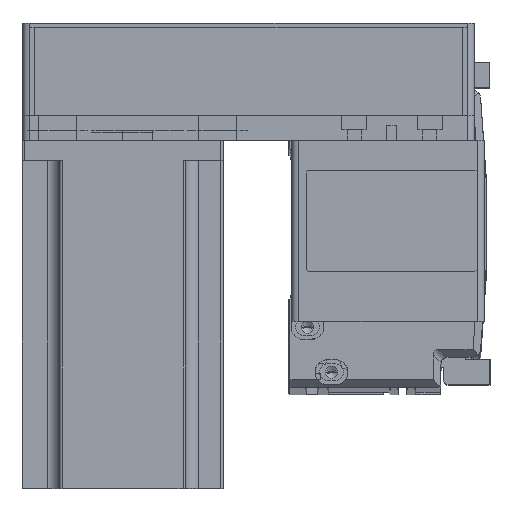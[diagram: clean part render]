
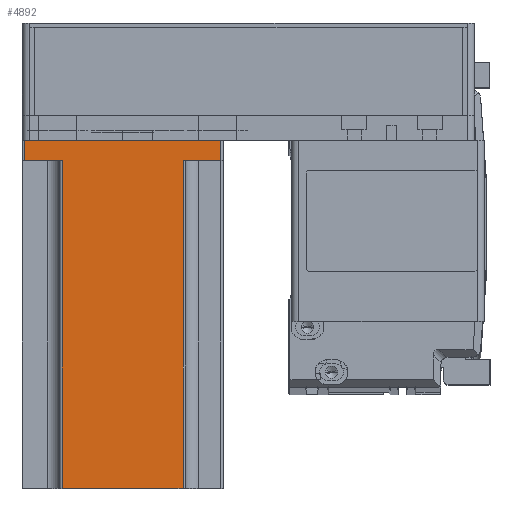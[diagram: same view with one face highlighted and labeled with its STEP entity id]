
A CAD part, top view. The second image highlights one B-rep face of the part: STEP entity #4892.
In plain terms, the highlighted planar face has unit normal (0, 0, 1) as drawn and (0, 1, 0) by its records, which use the part's own axes.
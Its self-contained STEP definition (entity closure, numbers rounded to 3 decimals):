
#2008 = ORIENTED_EDGE ( 'NONE', *, *, #39319, .T. ) ;
#2148 = EDGE_CURVE ( 'NONE', #21009, #41168, #34550, .T. ) ;
#2299 = DIRECTION ( 'NONE',  ( -1., 0., 0. ) ) ;
#3958 = CARTESIAN_POINT ( 'NONE',  ( -39., 40., 0. ) ) ;
#4892 = ADVANCED_FACE ( 'NONE', ( #8945 ), #6935, .F. ) ;
#5404 = LINE ( 'NONE', #43328, #29310 ) ;
#6935 = PLANE ( 'NONE',  #30428 ) ;
#8684 = DIRECTION ( 'NONE',  ( 1., 0., 0. ) ) ;
#8945 = FACE_OUTER_BOUND ( 'NONE', #35890, .T. ) ;
#9253 = ORIENTED_EDGE ( 'NONE', *, *, #53356, .F. ) ;
#11002 = ORIENTED_EDGE ( 'NONE', *, *, #32394, .T. ) ;
#12404 = CARTESIAN_POINT ( 'NONE',  ( -24., 40., 138.3 ) ) ;
#12584 = DIRECTION ( 'NONE',  ( 0., 0., 1. ) ) ;
#13468 = DIRECTION ( 'NONE',  ( 0., 0., 1. ) ) ;
#14840 = ORIENTED_EDGE ( 'NONE', *, *, #32261, .F. ) ;
#16613 = VECTOR ( 'NONE', #8684, 1000. ) ;
#19443 = CARTESIAN_POINT ( 'NONE',  ( 24., 40., 138.3 ) ) ;
#20026 = EDGE_CURVE ( 'NONE', #21514, #26393, #37053, .T. ) ;
#21009 = VERTEX_POINT ( 'NONE', #19443 ) ;
#21514 = VERTEX_POINT ( 'NONE', #54699 ) ;
#22385 = VECTOR ( 'NONE', #2299, 1000. ) ;
#23479 = CARTESIAN_POINT ( 'NONE',  ( 40., 40., 138.3 ) ) ;
#24588 = VECTOR ( 'NONE', #54751, 1000. ) ;
#25071 = CARTESIAN_POINT ( 'NONE',  ( 40., 40., 138.3 ) ) ;
#25332 = CARTESIAN_POINT ( 'NONE',  ( 39., 40., 138.3 ) ) ;
#26393 = VERTEX_POINT ( 'NONE', #3958 ) ;
#26612 = CARTESIAN_POINT ( 'NONE',  ( -25., 40., 8. ) ) ;
#26780 = CARTESIAN_POINT ( 'NONE',  ( -39., 40., 8. ) ) ;
#28204 = VECTOR ( 'NONE', #12584, 1000. ) ;
#28607 = LINE ( 'NONE', #26612, #16613 ) ;
#28677 = VERTEX_POINT ( 'NONE', #26780 ) ;
#28939 = ORIENTED_EDGE ( 'NONE', *, *, #2148, .T. ) ;
#29189 = CARTESIAN_POINT ( 'NONE',  ( 40., 40., 0. ) ) ;
#29310 = VECTOR ( 'NONE', #43128, 1000. ) ;
#29523 = DIRECTION ( 'NONE',  ( 1., 0., 0. ) ) ;
#30428 = AXIS2_PLACEMENT_3D ( 'NONE', #25071, #56271, #29523 ) ;
#31556 = LINE ( 'NONE', #44745, #43409 ) ;
#32261 = EDGE_CURVE ( 'NONE', #45612, #41168, #5404, .T. ) ;
#32394 = EDGE_CURVE ( 'NONE', #28677, #42221, #28607, .T. ) ;
#32665 = VECTOR ( 'NONE', #47316, 1000. ) ;
#33763 = CARTESIAN_POINT ( 'NONE',  ( -24., 40., 8. ) ) ;
#34550 = LINE ( 'NONE', #56327, #56956 ) ;
#35890 = EDGE_LOOP ( 'NONE', ( #11002, #2008, #9253, #28939, #14840, #56402, #43219, #45404 ) ) ;
#37053 = LINE ( 'NONE', #29189, #22385 ) ;
#39319 = EDGE_CURVE ( 'NONE', #42221, #53677, #51908, .T. ) ;
#39365 = CARTESIAN_POINT ( 'NONE',  ( -24., 40., 138.3 ) ) ;
#41168 = VERTEX_POINT ( 'NONE', #53639 ) ;
#41548 = EDGE_CURVE ( 'NONE', #45612, #21514, #55079, .T. ) ;
#42138 = CARTESIAN_POINT ( 'NONE',  ( 39., 40., 8. ) ) ;
#42221 = VERTEX_POINT ( 'NONE', #33763 ) ;
#43128 = DIRECTION ( 'NONE',  ( -1., 0., 0. ) ) ;
#43219 = ORIENTED_EDGE ( 'NONE', *, *, #20026, .T. ) ;
#43328 = CARTESIAN_POINT ( 'NONE',  ( 25., 40., 8. ) ) ;
#43409 = VECTOR ( 'NONE', #13468, 1000. ) ;
#43414 = EDGE_CURVE ( 'NONE', #26393, #28677, #31556, .T. ) ;
#44745 = CARTESIAN_POINT ( 'NONE',  ( -39., 40., 138.3 ) ) ;
#45404 = ORIENTED_EDGE ( 'NONE', *, *, #43414, .T. ) ;
#45612 = VERTEX_POINT ( 'NONE', #42138 ) ;
#47316 = DIRECTION ( 'NONE',  ( 0., 0., -1. ) ) ;
#48297 = LINE ( 'NONE', #23479, #24588 ) ;
#51908 = LINE ( 'NONE', #39365, #28204 ) ;
#53356 = EDGE_CURVE ( 'NONE', #21009, #53677, #48297, .T. ) ;
#53639 = CARTESIAN_POINT ( 'NONE',  ( 24., 40., 8. ) ) ;
#53677 = VERTEX_POINT ( 'NONE', #12404 ) ;
#54699 = CARTESIAN_POINT ( 'NONE',  ( 39., 40., 0. ) ) ;
#54751 = DIRECTION ( 'NONE',  ( -1., 0., 0. ) ) ;
#55079 = LINE ( 'NONE', #25332, #32665 ) ;
#56271 = DIRECTION ( 'NONE',  ( 0., -1., 0. ) ) ;
#56327 = CARTESIAN_POINT ( 'NONE',  ( 24., 40., 138.3 ) ) ;
#56402 = ORIENTED_EDGE ( 'NONE', *, *, #41548, .T. ) ;
#56524 = DIRECTION ( 'NONE',  ( 0., 0., -1. ) ) ;
#56956 = VECTOR ( 'NONE', #56524, 1000. ) ;
